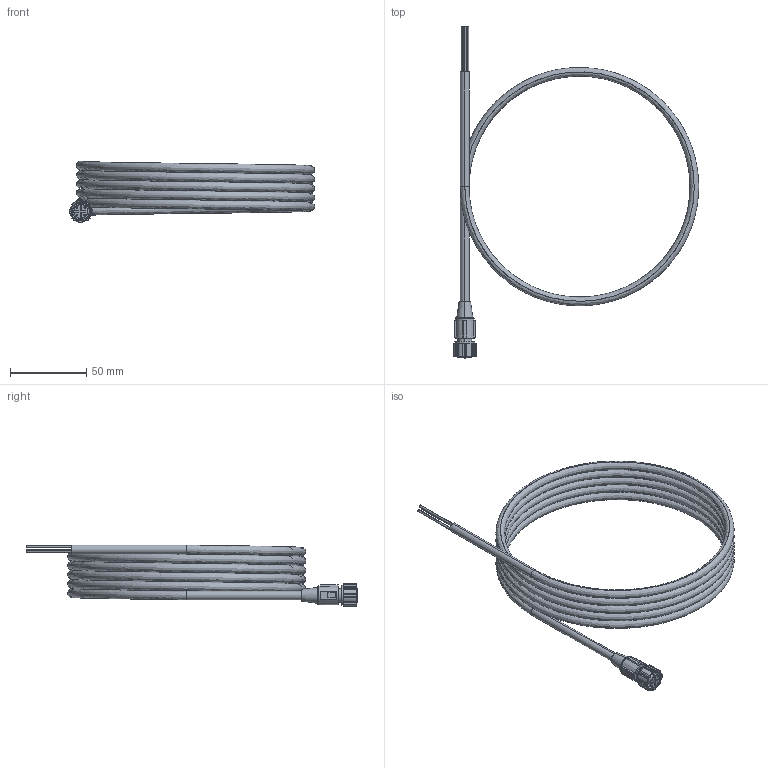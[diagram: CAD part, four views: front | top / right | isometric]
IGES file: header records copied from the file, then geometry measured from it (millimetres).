
Start section: SolidWorks IGES file using analytic representation for surfaces
Global section: file name: C:\Salvar\Planos Compartidos\Regulador de Pres. Prop\Cable-1.IGS; native system: SolidWorks 2021; preprocessor: SolidWorks 2021; author: osval; date: 210212.123528; units: millimetre
Bounding box: 160.33 x 217 x 40.33 mm (x, y, z)
Surface area: 47868.3 mm2 (no closed solid volume)
Topology: 0 solids, 0 shells, 148 faces, 1602 edges, 1602 vertices
Faces by surface type: revolution 74, bspline 74
